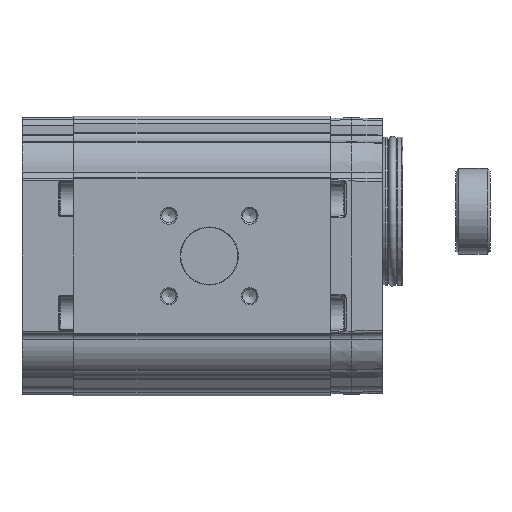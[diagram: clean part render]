
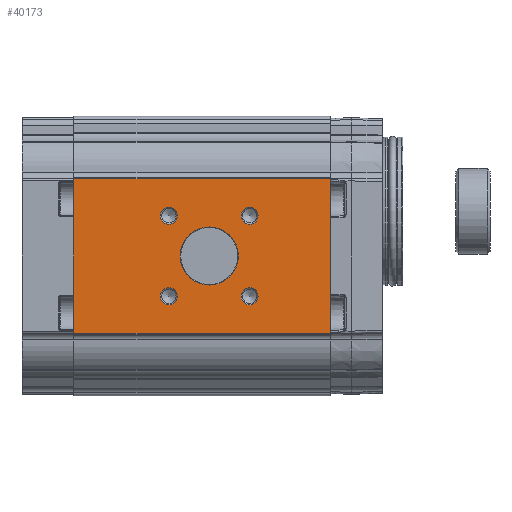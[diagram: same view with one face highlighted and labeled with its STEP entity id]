
A CAD part, left-side view. The second image highlights one B-rep face of the part: STEP entity #40173.
In plain terms, the highlighted planar face has unit normal (-1, 0, 0).
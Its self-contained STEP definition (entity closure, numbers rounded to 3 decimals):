
#2316=LINE('',#68682,#4014);
#2317=LINE('',#68685,#4015);
#2318=LINE('',#68687,#4016);
#2319=LINE('',#68689,#4017);
#4014=VECTOR('',#49323,1000.);
#4015=VECTOR('',#49324,1000.);
#4016=VECTOR('',#49325,1000.);
#4017=VECTOR('',#49326,1000.);
#11099=ORIENTED_EDGE('',*,*,#16768,.T.);
#11100=ORIENTED_EDGE('',*,*,#16769,.T.);
#11101=ORIENTED_EDGE('',*,*,#16770,.T.);
#11102=ORIENTED_EDGE('',*,*,#16771,.T.);
#11103=ORIENTED_EDGE('',*,*,#16772,.T.);
#11104=ORIENTED_EDGE('',*,*,#16773,.F.);
#11105=ORIENTED_EDGE('',*,*,#16774,.F.);
#11106=ORIENTED_EDGE('',*,*,#16775,.T.);
#11107=ORIENTED_EDGE('',*,*,#16776,.T.);
#16768=EDGE_CURVE('',#19923,#19923,#21883,.F.);
#16769=EDGE_CURVE('',#19924,#19924,#21884,.F.);
#16770=EDGE_CURVE('',#19925,#19925,#21885,.F.);
#16771=EDGE_CURVE('',#19926,#19926,#21886,.F.);
#16772=EDGE_CURVE('',#19927,#19927,#21887,.F.);
#16773=EDGE_CURVE('',#19928,#19929,#2316,.T.);
#16774=EDGE_CURVE('',#19930,#19928,#2317,.T.);
#16775=EDGE_CURVE('',#19930,#19931,#2318,.T.);
#16776=EDGE_CURVE('',#19931,#19929,#2319,.T.);
#19923=VERTEX_POINT('',#68673);
#19924=VERTEX_POINT('',#68675);
#19925=VERTEX_POINT('',#68677);
#19926=VERTEX_POINT('',#68679);
#19927=VERTEX_POINT('',#68681);
#19928=VERTEX_POINT('',#68683);
#19929=VERTEX_POINT('',#68684);
#19930=VERTEX_POINT('',#68686);
#19931=VERTEX_POINT('',#68688);
#21883=CIRCLE('',#42931,10.2);
#21884=CIRCLE('',#42932,3.);
#21885=CIRCLE('',#42933,3.);
#21886=CIRCLE('',#42934,3.);
#21887=CIRCLE('',#42935,3.);
#23737=EDGE_LOOP('',(#11099));
#23738=EDGE_LOOP('',(#11100));
#23739=EDGE_LOOP('',(#11101));
#23740=EDGE_LOOP('',(#11102));
#23741=EDGE_LOOP('',(#11103));
#23742=EDGE_LOOP('',(#11104,#11105,#11106,#11107));
#25753=FACE_BOUND('',#23737,.T.);
#25754=FACE_BOUND('',#23738,.T.);
#25755=FACE_BOUND('',#23739,.T.);
#25756=FACE_BOUND('',#23740,.T.);
#25757=FACE_BOUND('',#23741,.T.);
#25758=FACE_BOUND('',#23742,.T.);
#26825=PLANE('',#42930);
#40173=ADVANCED_FACE('',(#25753,#25754,#25755,#25756,#25757,#25758),#26825,
 .T.);
#42930=AXIS2_PLACEMENT_3D('',#68671,#49311,#49312);
#42931=AXIS2_PLACEMENT_3D('',#68672,#49313,#49314);
#42932=AXIS2_PLACEMENT_3D('',#68674,#49315,#49316);
#42933=AXIS2_PLACEMENT_3D('',#68676,#49317,#49318);
#42934=AXIS2_PLACEMENT_3D('',#68678,#49319,#49320);
#42935=AXIS2_PLACEMENT_3D('',#68680,#49321,#49322);
#49311=DIRECTION('',(-1.,0.,0.));
#49312=DIRECTION('',(0.,0.,1.));
#49313=DIRECTION('',(-1.,0.,0.));
#49314=DIRECTION('',(0.,0.,1.));
#49315=DIRECTION('',(-1.,0.,0.));
#49316=DIRECTION('',(0.,0.,1.));
#49317=DIRECTION('',(-1.,0.,0.));
#49318=DIRECTION('',(0.,0.,1.));
#49319=DIRECTION('',(-1.,0.,0.));
#49320=DIRECTION('',(0.,0.,1.));
#49321=DIRECTION('',(-1.,0.,0.));
#49322=DIRECTION('',(0.,0.,1.));
#49323=DIRECTION('',(0.,0.,-1.));
#49324=DIRECTION('',(0.,-1.,0.));
#49325=DIRECTION('',(0.,0.,-1.));
#49326=DIRECTION('',(0.,-1.,0.));
#68671=CARTESIAN_POINT('',(-43.,90.,27.048));
#68672=CARTESIAN_POINT('',(-43.,42.5,0.));
#68673=CARTESIAN_POINT('',(-43.,42.5,10.2));
#68674=CARTESIAN_POINT('',(-43.,56.642,-14.142));
#68675=CARTESIAN_POINT('',(-43.,56.642,-11.142));
#68676=CARTESIAN_POINT('',(-43.,56.642,14.142));
#68677=CARTESIAN_POINT('',(-43.,56.642,17.142));
#68678=CARTESIAN_POINT('',(-43.,28.358,14.142));
#68679=CARTESIAN_POINT('',(-43.,28.358,17.142));
#68680=CARTESIAN_POINT('',(-43.,28.358,-14.142));
#68681=CARTESIAN_POINT('',(-43.,28.358,-11.142));
#68682=CARTESIAN_POINT('',(-43.,0.,27.048));
#68683=CARTESIAN_POINT('',(-43.,0.,27.048));
#68684=CARTESIAN_POINT('',(-43.,0.,-27.048));
#68685=CARTESIAN_POINT('',(-43.,90.,27.048));
#68686=CARTESIAN_POINT('',(-43.,90.,27.048));
#68687=CARTESIAN_POINT('',(-43.,90.,27.048));
#68688=CARTESIAN_POINT('',(-43.,90.,-27.048));
#68689=CARTESIAN_POINT('',(-43.,90.,-27.048));
